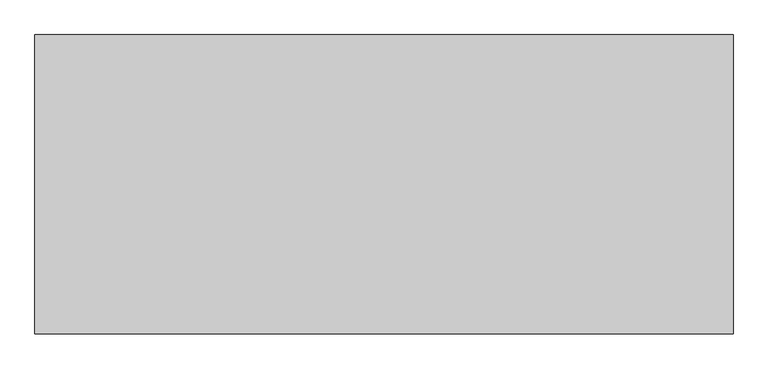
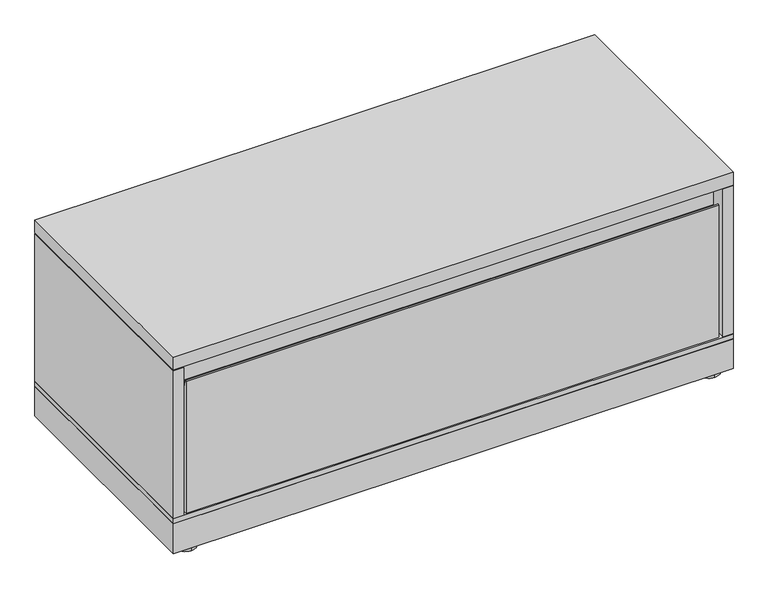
"""IFC4 building model written with IfcOpenShell, lengths in millimetres: furniture geometry, Steelcase - Universal Storage - Lateral File - 1 High - Flush Steel : Drawer - 18D x 42W."""

from ifc_helpers import new_model, si_unit, point, frame, frame_2d, origin, origin_with_axes, place, context, project, spatial, polyline, circle_curve, trimmed, segment, composite_curve, outline, extrude, source, transform, mapped, element, save


def furniture_be052729(model_context):
    return source(origin(), model_context, "Body", "SweptSolid", [
        extrude(outline(polyline([(1066.8, 457.2), (1066.8, 0.0), (0.0, 0.0), (0.0, 457.2), (1066.8, 457.2)])), frame((0.0, 0.0, 6.3500002), z_axis=(0.0, 0.0, 1.0), x_axis=(1.0, 0.0, 0.0)), (0.0, 0.0, 1.0), 59.6899998),
        extrude(outline(composite_curve([segment(trimmed(circle_curve(frame_2d((1032.1290058, 434.8633666)), 20.32), [point((1032.1290058, 414.5433666))], [point((1032.1290058, 455.1833666))], False, "CARTESIAN"), True, "CONTINUOUS"), segment(trimmed(circle_curve(frame_2d((1032.1290058, 434.8633666)), 20.32), [point((1032.1290058, 455.1833666))], [point((1032.1290058, 414.5433666))], False, "CARTESIAN"), True, "CONTINUOUS")], self_intersect=False)), origin_with_axes(), (0.0, 0.0, 1.0), 6.3500002),
        extrude(outline(composite_curve([segment(trimmed(circle_curve(frame_2d((1032.1290058, 20.7491455)), 20.32), [point((1032.1290058, 0.4291455))], [point((1032.1290058, 41.0691455))], False, "CARTESIAN"), True, "CONTINUOUS"), segment(trimmed(circle_curve(frame_2d((1032.1290058, 20.7491455)), 20.32), [point((1032.1290058, 41.0691455))], [point((1032.1290058, 0.4291455))], False, "CARTESIAN"), True, "CONTINUOUS")], self_intersect=False)), origin_with_axes(), (0.0, 0.0, 1.0), 6.3500002),
        extrude(outline(composite_curve([segment(trimmed(circle_curve(frame_2d((34.29, 434.8633666)), 20.32), [point((34.29, 455.1833666))], [point((34.29, 414.5433666))], False, "CARTESIAN"), True, "CONTINUOUS"), segment(trimmed(circle_curve(frame_2d((34.29, 434.8633666)), 20.32), [point((34.29, 414.5433666))], [point((34.29, 455.1833666))], False, "CARTESIAN"), True, "CONTINUOUS")], self_intersect=False)), origin_with_axes(), (0.0, 0.0, 1.0), 6.3500002),
        extrude(outline(composite_curve([segment(trimmed(circle_curve(frame_2d((34.29, 20.7491455)), 20.32), [point((34.29, 41.0691455))], [point((34.29, 0.4291455))], False, "CARTESIAN"), True, "CONTINUOUS"), segment(trimmed(circle_curve(frame_2d((34.29, 20.7491455)), 20.32), [point((34.29, 0.4291455))], [point((34.29, 41.0691455))], False, "CARTESIAN"), True, "CONTINUOUS")], self_intersect=False)), origin_with_axes(), (0.0, 0.0, 1.0), 6.3500002),
        extrude(outline(composite_curve([segment(polyline([(25.4254103, 76.2), (3.2004224, 76.2), (3.2004224, 342.8171562)]), True, "CONTINUOUS"), segment(trimmed(circle_curve(frame_2d((4.3477111, 342.8171562)), 1.1472887), [point((3.2004224, 342.8171562))], [point((5.4949998, 342.8171562))], False, "CARTESIAN"), True, "CONTINUOUS"), segment(polyline([(5.4949998, 342.8171562), (6.7505036, 332.5918984)]), True, "CONTINUOUS"), segment(trimmed(circle_curve(frame_2d((10.035785, 332.9952802)), 3.3099532), [point((6.7505036, 332.5918984))], [point((10.035785, 329.685327))], True, "CARTESIAN"), True, "CONTINUOUS"), segment(polyline([(10.035785, 329.685327), (17.8753095, 329.685327)]), True, "CONTINUOUS"), segment(trimmed(circle_curve(frame_2d((17.8753095, 332.8666173)), 3.1812904), [point((17.8753095, 329.685327))], [point((21.0565999, 332.8666173))], True, "CARTESIAN"), True, "CONTINUOUS"), segment(polyline([(21.0565999, 332.8666173), (21.0565999, 373.5831925)]), True, "CONTINUOUS"), segment(trimmed(circle_curve(frame_2d((21.8270776, 373.5831925)), 0.7704777), [point((21.0565999, 373.5831925))], [point((21.5798734, 374.3129363))], False, "CARTESIAN"), True, "CONTINUOUS"), segment(trimmed(circle_curve(frame_2d((22.5148866, 371.5527885)), 2.9142178), [point((21.5798734, 374.3129363))], [point((25.4254103, 371.6994776))], False, "CARTESIAN"), True, "CONTINUOUS"), segment(polyline([(25.4254103, 371.6994776), (25.4254103, 76.2)]), True, "CONTINUOUS")], self_intersect=False)), frame((25.908, 0.0, 0.0), z_axis=(1.0, 0.0, 0.0), x_axis=(0.0, 1.0, 0.0)), (0.0, 0.0, 1.0), 1014.984),
        extrude(outline(polyline([(1066.8, 0.0), (0.0, 0.0), (0.0, 457.2), (1066.8, 457.2), (1066.8, 0.0)])), frame((0.0, 0.0, 376.3010136), z_axis=(0.0, 0.0, 1.0), x_axis=(1.0, 0.0, 0.0)), (0.0, 0.0, 1.0), 25.3999758),
        extrude(outline(polyline([(1066.8, 0.0), (0.0, 0.0), (0.0, 457.2), (1066.8, 457.2), (1066.8, 0.0)])), frame((0.0, 0.0, 66.04), z_axis=(0.0, 0.0, 1.0), x_axis=(1.0, 0.0, 0.0)), (0.0, 0.0, 1.0), 10.16),
        extrude(outline(polyline([(0.0, 457.2), (1066.8, 457.2), (1066.8, 0.0), (1047.2419641, 0.0), (1047.2419641, 456.438), (19.558, 456.438), (19.558, 0.0), (0.0, 0.0), (0.0, 457.2)])), frame((0.0, 0.0, 76.2), z_axis=(0.0, 0.0, 1.0), x_axis=(1.0, 0.0, 0.0)), (0.0, 0.0, 1.0), 298.577),
    ])


if __name__ == "__main__":
    model = new_model("IFC4")
    model_context = context("Model", 3, world=origin())
    ifc_project = project(units=[si_unit("LENGTHUNIT", "METRE", prefix="MILLI")], contexts=[model_context])
    site = spatial("IfcSite", under=ifc_project)
    building = spatial("IfcBuilding", under=site)
    placement = place(None, origin())
    furniture_shape = furniture_be052729(model_context)
    element("IfcFurniture", 1, ObjectType="Steelcase - Universal Storage - Lateral File - 1 High - Flush Steel : Drawer - 18D x 42W", at=placement, inside=building, context=model_context, shape_type="MappedRepresentation", body=[
        mapped(furniture_shape, transform((0.0, 0.0, 0.0), x_axis=(1.0, 0.0, 0.0), y_axis=(0.0, 1.0, 0.0), z_axis=(0.0, 0.0, 1.0))),
    ])
    save(model, "model.ifc")
